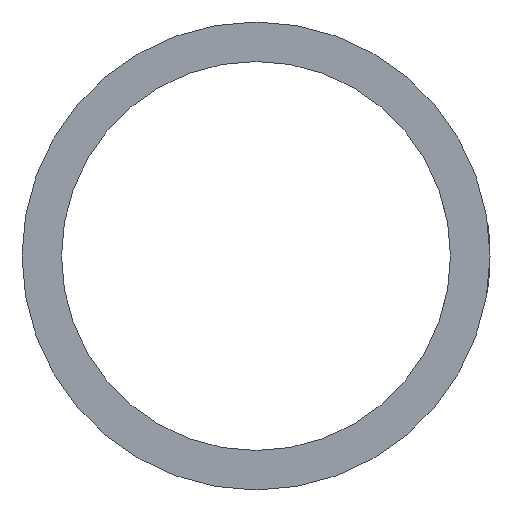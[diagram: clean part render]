
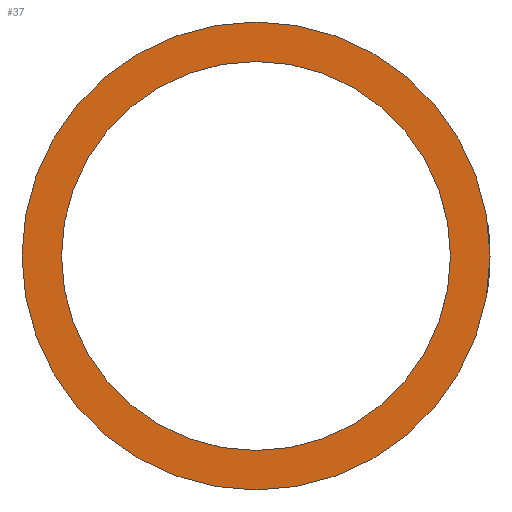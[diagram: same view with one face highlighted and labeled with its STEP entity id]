
A CAD part, front view. The second image highlights one B-rep face of the part: STEP entity #37.
In plain terms, the highlighted planar face has unit normal (0, -1, 0).
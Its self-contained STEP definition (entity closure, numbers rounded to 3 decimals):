
#31=FACE_BOUND('',#57,.F.);
#33=PLANE('',#260);
#37=ADVANCED_FACE('',(#31,#47),#33,.T.);
#47=FACE_OUTER_BOUND('',#58,.F.);
#57=EDGE_LOOP('',(#83,#84));
#58=EDGE_LOOP('',(#85,#86));
#83=ORIENTED_EDGE('',*,*,#200,.T.);
#84=ORIENTED_EDGE('',*,*,#192,.T.);
#85=ORIENTED_EDGE('',*,*,#203,.F.);
#86=ORIENTED_EDGE('',*,*,#195,.F.);
#164=CIRCLE('',#250,17.526);
#167=CIRCLE('',#253,21.082);
#168=CIRCLE('',#254,17.526);
#171=CIRCLE('',#257,21.082);
#192=EDGE_CURVE('',#239,#237,#164,.T.);
#195=EDGE_CURVE('',#233,#232,#167,.T.);
#200=EDGE_CURVE('',#237,#239,#168,.T.);
#203=EDGE_CURVE('',#232,#233,#171,.T.);
#232=VERTEX_POINT('',#322);
#233=VERTEX_POINT('',#323);
#237=VERTEX_POINT('',#327);
#239=VERTEX_POINT('',#329);
#250=AXIS2_PLACEMENT_3D('',#454,#275,#276);
#253=AXIS2_PLACEMENT_3D('',#457,#281,#282);
#254=AXIS2_PLACEMENT_3D('',#462,#287,#288);
#257=AXIS2_PLACEMENT_3D('',#465,#293,#294);
#260=AXIS2_PLACEMENT_3D('',#472,#303,#304);
#275=DIRECTION('',(0.,-1.,0.));
#276=DIRECTION('',(1.,0.,0.));
#281=DIRECTION('',(0.,-1.,0.));
#282=DIRECTION('',(1.,0.,0.));
#287=DIRECTION('',(0.,-1.,0.));
#288=DIRECTION('',(-1.,0.,0.));
#293=DIRECTION('',(0.,-1.,0.));
#294=DIRECTION('',(-1.,0.,0.));
#303=DIRECTION('',(0.,-1.,0.));
#304=DIRECTION('',(0.,0.,-1.));
#322=CARTESIAN_POINT('',(1006.293,519.252,-848.126));
#323=CARTESIAN_POINT('',(1048.457,519.252,-848.126));
#327=CARTESIAN_POINT('',(1009.849,519.252,-848.126));
#329=CARTESIAN_POINT('',(1044.901,519.252,-848.126));
#454=CARTESIAN_POINT('',(1027.375,519.252,-848.126));
#457=CARTESIAN_POINT('',(1027.375,519.252,-848.126));
#462=CARTESIAN_POINT('',(1027.375,519.252,-848.126));
#465=CARTESIAN_POINT('',(1027.375,519.252,-848.126));
#472=CARTESIAN_POINT('',(1005.871,519.252,-826.622));
